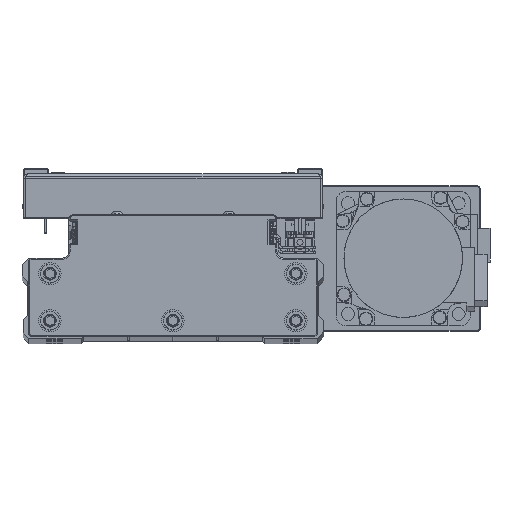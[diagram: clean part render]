
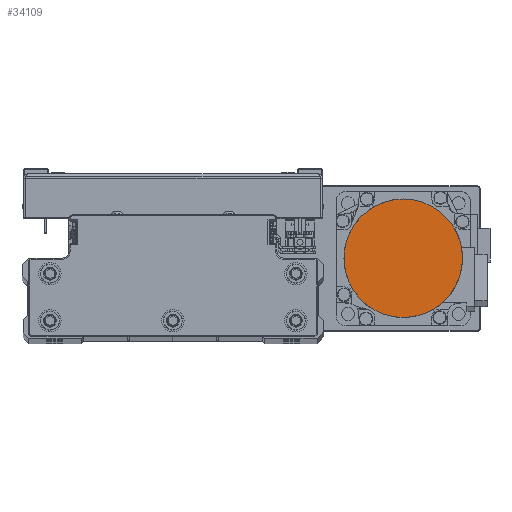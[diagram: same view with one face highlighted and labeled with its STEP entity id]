
A CAD part, top view. The second image highlights one B-rep face of the part: STEP entity #34109.
In plain terms, the highlighted planar face has unit normal (0, 0, 1) as drawn and (0, 0, -1) by its records, which use the part's own axes.
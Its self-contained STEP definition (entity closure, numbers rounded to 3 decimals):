
#107 = CARTESIAN_POINT ( 'NONE',  ( 6.871, 25.652, -109.7 ) ) ;
#344 = CARTESIAN_POINT ( 'NONE',  ( -22.998, 13.28, -109.7 ) ) ;
#1063 = CARTESIAN_POINT ( 'NONE',  ( -25.147, -8.539, -109.7 ) ) ;
#1278 = CARTESIAN_POINT ( 'NONE',  ( 1.734, -26.5, -109.7 ) ) ;
#1499 = CARTESIAN_POINT ( 'NONE',  ( 25.652, -6.871, -109.7 ) ) ;
#3516 = CARTESIAN_POINT ( 'NONE',  ( 13.28, 22.998, -109.7 ) ) ;
#3738 = CARTESIAN_POINT ( 'NONE',  ( -17.512, 19.965, -109.7 ) ) ;
#4455 = CARTESIAN_POINT ( 'NONE',  ( -26.5, -1.734, -109.7 ) ) ;
#4686 = CARTESIAN_POINT ( 'NONE',  ( -6.871, -25.652, -109.7 ) ) ;
#4889 = CARTESIAN_POINT ( 'NONE',  ( 22.998, -13.28, -109.7 ) ) ;
#5284 = EDGE_LOOP ( 'NONE', ( #18800, #33713 ) ) ;
#6936 = CARTESIAN_POINT ( 'NONE',  ( 19.965, 17.512, -109.7 ) ) ;
#7149 = CARTESIAN_POINT ( 'NONE',  ( -11.744, 23.819, -109.7 ) ) ;
#7859 = B_SPLINE_CURVE_WITH_KNOTS ( 'NONE', 3,
 ( #35526, #4455, #18296, #32144, #1063, #14892, #28739, #42538, #11488, #25344, #39140, #8092, #21946, #35759, #4686, #18523, #32355, #1278, #15106, #28955, #42758, #11711, #25568, #39375, #8319, #22173, #35969, #4889, #18737, #32574, #1499, #15328, #29182, #42998 ),
 .UNSPECIFIED., .F., .F.,
 ( 4, 2, 2, 2, 2, 2, 2, 2, 2, 2, 2, 2, 2, 2, 2, 2, 4 ),
 ( 0., 0.063, 0.125, 0.188, 0.25, 0.312, 0.375, 0.437, 0.5, 0.562, 0.625, 0.687, 0.75, 0.813, 0.875, 0.938, 1. ),
 .UNSPECIFIED. ) ;
#8092 = CARTESIAN_POINT ( 'NONE',  ( -13.28, -22.998, -109.7 ) ) ;
#8319 = CARTESIAN_POINT ( 'NONE',  ( 17.512, -19.965, -109.7 ) ) ;
#9257 = DIRECTION ( 'NONE',  ( 0., 0., 1. ) ) ;
#10330 = CARTESIAN_POINT ( 'NONE',  ( 23.819, 11.744, -109.7 ) ) ;
#10520 = AXIS2_PLACEMENT_3D ( 'NONE', #40310, #9257, #23111 ) ;
#10566 = CARTESIAN_POINT ( 'NONE',  ( -3.469, 26.329, -109.7 ) ) ;
#10781 = CARTESIAN_POINT ( 'NONE',  ( -26.329, 3.469, -109.7 ) ) ;
#11488 = CARTESIAN_POINT ( 'NONE',  ( -19.965, -17.512, -109.7 ) ) ;
#11711 = CARTESIAN_POINT ( 'NONE',  ( 11.744, -23.819, -109.7 ) ) ;
#12524 = EDGE_CURVE ( 'NONE', #20699, #17153, #7859, .T. ) ;
#12675 = FACE_OUTER_BOUND ( 'NONE', #5284, .T. ) ;
#13723 = CARTESIAN_POINT ( 'NONE',  ( 26.329, 3.469, -109.7 ) ) ;
#13955 = CARTESIAN_POINT ( 'NONE',  ( 3.469, 26.329, -109.7 ) ) ;
#14186 = CARTESIAN_POINT ( 'NONE',  ( -23.819, 11.744, -109.7 ) ) ;
#14892 = CARTESIAN_POINT ( 'NONE',  ( -23.819, -11.744, -109.7 ) ) ;
#15106 = CARTESIAN_POINT ( 'NONE',  ( 3.469, -26.329, -109.7 ) ) ;
#15328 = CARTESIAN_POINT ( 'NONE',  ( 26.329, -3.469, -109.7 ) ) ;
#17153 = VERTEX_POINT ( 'NONE', #34583 ) ;
#17358 = CARTESIAN_POINT ( 'NONE',  ( 11.744, 23.819, -109.7 ) ) ;
#17594 = CARTESIAN_POINT ( 'NONE',  ( -19.965, 17.512, -109.7 ) ) ;
#18296 = CARTESIAN_POINT ( 'NONE',  ( -26.329, -3.469, -109.7 ) ) ;
#18523 = CARTESIAN_POINT ( 'NONE',  ( -3.469, -26.329, -109.7 ) ) ;
#18737 = CARTESIAN_POINT ( 'NONE',  ( 23.819, -11.744, -109.7 ) ) ;
#18800 = ORIENTED_EDGE ( 'NONE', *, *, #31738, .F. ) ;
#20699 = VERTEX_POINT ( 'NONE', #25673 ) ;
#20783 = CARTESIAN_POINT ( 'NONE',  ( 17.512, 19.965, -109.7 ) ) ;
#21002 = CARTESIAN_POINT ( 'NONE',  ( -13.28, 22.998, -109.7 ) ) ;
#21946 = CARTESIAN_POINT ( 'NONE',  ( -11.744, -23.819, -109.7 ) ) ;
#22173 = CARTESIAN_POINT ( 'NONE',  ( 19.965, -17.512, -109.7 ) ) ;
#23111 = DIRECTION ( 'NONE',  ( 1., 0., 0. ) ) ;
#24195 = CARTESIAN_POINT ( 'NONE',  ( 22.998, 13.28, -109.7 ) ) ;
#24411 = CARTESIAN_POINT ( 'NONE',  ( -6.871, 25.652, -109.7 ) ) ;
#24633 = CARTESIAN_POINT ( 'NONE',  ( -26.5, 1.734, -109.7 ) ) ;
#25344 = CARTESIAN_POINT ( 'NONE',  ( -17.512, -19.965, -109.7 ) ) ;
#25568 = CARTESIAN_POINT ( 'NONE',  ( 13.28, -22.998, -109.7 ) ) ;
#25673 = CARTESIAN_POINT ( 'NONE',  ( -26.5, 0., -109.7 ) ) ;
#26515 = PLANE ( 'NONE',  #10520 ) ;
#27575 = CARTESIAN_POINT ( 'NONE',  ( 25.652, 6.871, -109.7 ) ) ;
#27816 = CARTESIAN_POINT ( 'NONE',  ( 1.734, 26.5, -109.7 ) ) ;
#28031 = CARTESIAN_POINT ( 'NONE',  ( -25.147, 8.539, -109.7 ) ) ;
#28739 = CARTESIAN_POINT ( 'NONE',  ( -22.998, -13.28, -109.7 ) ) ;
#28955 = CARTESIAN_POINT ( 'NONE',  ( 6.871, -25.652, -109.7 ) ) ;
#29182 = CARTESIAN_POINT ( 'NONE',  ( 26.5, -1.734, -109.7 ) ) ;
#30966 = CARTESIAN_POINT ( 'NONE',  ( 26.5, 0., -109.7 ) ) ;
#31197 = CARTESIAN_POINT ( 'NONE',  ( 8.539, 25.147, -109.7 ) ) ;
#31431 = CARTESIAN_POINT ( 'NONE',  ( -21.07, 16.165, -109.7 ) ) ;
#31738 = EDGE_CURVE ( 'NONE', #17153, #20699, #37648, .T. ) ;
#32144 = CARTESIAN_POINT ( 'NONE',  ( -25.652, -6.871, -109.7 ) ) ;
#32355 = CARTESIAN_POINT ( 'NONE',  ( -1.734, -26.5, -109.7 ) ) ;
#32574 = CARTESIAN_POINT ( 'NONE',  ( 25.147, -8.539, -109.7 ) ) ;
#33713 = ORIENTED_EDGE ( 'NONE', *, *, #12524, .F. ) ;
#34109 = ADVANCED_FACE ( 'NONE', ( #12675 ), #26515, .F. ) ;
#34583 = CARTESIAN_POINT ( 'NONE',  ( 26.5, 0., -109.7 ) ) ;
#34585 = CARTESIAN_POINT ( 'NONE',  ( 16.165, 21.07, -109.7 ) ) ;
#34814 = CARTESIAN_POINT ( 'NONE',  ( -16.165, 21.07, -109.7 ) ) ;
#35526 = CARTESIAN_POINT ( 'NONE',  ( -26.5, 0., -109.7 ) ) ;
#35759 = CARTESIAN_POINT ( 'NONE',  ( -8.539, -25.147, -109.7 ) ) ;
#35969 = CARTESIAN_POINT ( 'NONE',  ( 21.07, -16.165, -109.7 ) ) ;
#37648 = B_SPLINE_CURVE_WITH_KNOTS ( 'NONE', 3,
 ( #30966, #44794, #13723, #27575, #41383, #10330, #24195, #37999, #6936, #20783, #34585, #3516, #17358, #31197, #107, #13955, #27816, #41625, #10566, #24411, #38208, #7149, #21002, #34814, #3738, #17594, #31431, #344, #14186, #28031, #41831, #10781, #24633, #38433 ),
 .UNSPECIFIED., .F., .F.,
 ( 4, 2, 2, 2, 2, 2, 2, 2, 2, 2, 2, 2, 2, 2, 2, 2, 4 ),
 ( 0., 0.062, 0.125, 0.187, 0.25, 0.312, 0.375, 0.437, 0.5, 0.562, 0.625, 0.687, 0.75, 0.813, 0.875, 0.938, 1. ),
 .UNSPECIFIED. ) ;
#37999 = CARTESIAN_POINT ( 'NONE',  ( 21.07, 16.165, -109.7 ) ) ;
#38208 = CARTESIAN_POINT ( 'NONE',  ( -8.539, 25.147, -109.7 ) ) ;
#38433 = CARTESIAN_POINT ( 'NONE',  ( -26.5, 0., -109.7 ) ) ;
#39140 = CARTESIAN_POINT ( 'NONE',  ( -16.165, -21.07, -109.7 ) ) ;
#39375 = CARTESIAN_POINT ( 'NONE',  ( 16.165, -21.07, -109.7 ) ) ;
#40310 = CARTESIAN_POINT ( 'NONE',  ( 0., 0., -109.7 ) ) ;
#41383 = CARTESIAN_POINT ( 'NONE',  ( 25.147, 8.539, -109.7 ) ) ;
#41625 = CARTESIAN_POINT ( 'NONE',  ( -1.734, 26.5, -109.7 ) ) ;
#41831 = CARTESIAN_POINT ( 'NONE',  ( -25.652, 6.871, -109.7 ) ) ;
#42538 = CARTESIAN_POINT ( 'NONE',  ( -21.07, -16.165, -109.7 ) ) ;
#42758 = CARTESIAN_POINT ( 'NONE',  ( 8.539, -25.147, -109.7 ) ) ;
#42998 = CARTESIAN_POINT ( 'NONE',  ( 26.5, 0., -109.7 ) ) ;
#44794 = CARTESIAN_POINT ( 'NONE',  ( 26.5, 1.734, -109.7 ) ) ;
